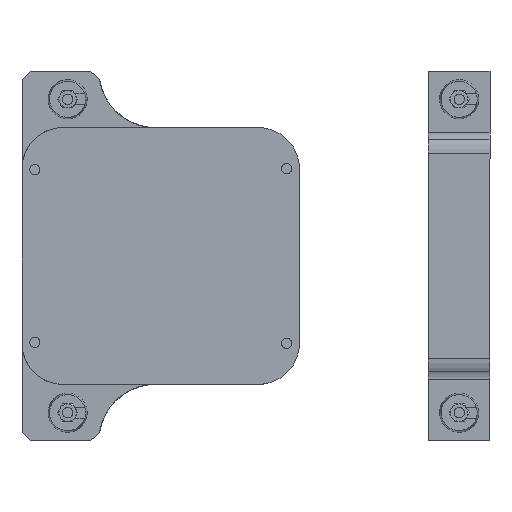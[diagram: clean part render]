
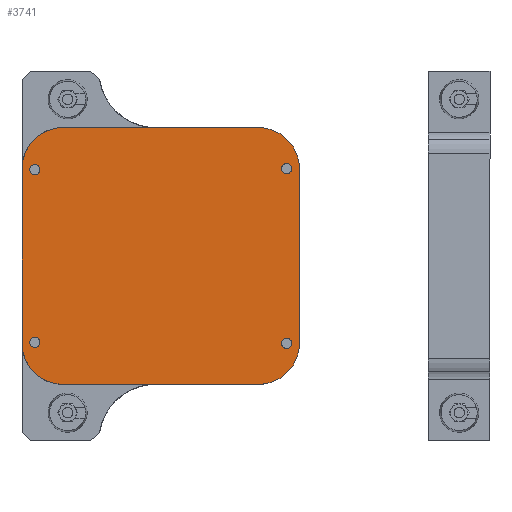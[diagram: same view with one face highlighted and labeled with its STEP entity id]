
A CAD part, top view. The second image highlights one B-rep face of the part: STEP entity #3741.
In plain terms, the highlighted planar face has unit normal (0, 0, 1).
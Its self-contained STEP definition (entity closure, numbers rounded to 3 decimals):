
#1671=LINE('',#23038,#2329);
#1674=LINE('',#23046,#2332);
#1675=LINE('',#23048,#2333);
#1676=LINE('',#23050,#2334);
#2329=VECTOR('',#17945,1.);
#2332=VECTOR('',#17954,1.);
#2333=VECTOR('',#17957,1.);
#2334=VECTOR('',#17960,1.);
#2691=FACE_BOUND('',#5826,.T.);
#2692=FACE_BOUND('',#5827,.T.);
#2693=FACE_BOUND('',#5828,.T.);
#2694=FACE_BOUND('',#5829,.T.);
#2695=FACE_BOUND('',#5830,.T.);
#3741=ADVANCED_FACE('',(#2691,#2692,#2693,#2694,#2695),#4584,.F.);
#4584=PLANE('',#15393);
#5826=EDGE_LOOP('',(#8377));
#5827=EDGE_LOOP('',(#8378));
#5828=EDGE_LOOP('',(#8379));
#5829=EDGE_LOOP('',(#8380));
#5830=EDGE_LOOP('',(#8381,#8382,#8383,#8384,#8385,#8386,#8387,#8388));
#8377=ORIENTED_EDGE('',*,*,#12943,.F.);
#8378=ORIENTED_EDGE('',*,*,#12942,.F.);
#8379=ORIENTED_EDGE('',*,*,#12941,.F.);
#8380=ORIENTED_EDGE('',*,*,#12940,.F.);
#8381=ORIENTED_EDGE('',*,*,#12938,.T.);
#8382=ORIENTED_EDGE('',*,*,#12936,.T.);
#8383=ORIENTED_EDGE('',*,*,#12937,.T.);
#8384=ORIENTED_EDGE('',*,*,#12932,.T.);
#8385=ORIENTED_EDGE('',*,*,#12933,.T.);
#8386=ORIENTED_EDGE('',*,*,#12929,.T.);
#8387=ORIENTED_EDGE('',*,*,#12939,.T.);
#8388=ORIENTED_EDGE('',*,*,#12926,.T.);
#11269=VERTEX_POINT('',#23021);
#11270=VERTEX_POINT('',#23023);
#11271=VERTEX_POINT('',#23027);
#11272=VERTEX_POINT('',#23029);
#11273=VERTEX_POINT('',#23033);
#11274=VERTEX_POINT('',#23035);
#11275=VERTEX_POINT('',#23041);
#11276=VERTEX_POINT('',#23043);
#11277=VERTEX_POINT('',#23053);
#11278=VERTEX_POINT('',#23056);
#11279=VERTEX_POINT('',#23059);
#11280=VERTEX_POINT('',#23062);
#12926=EDGE_CURVE('',#11269,#11270,#14317,.T.);
#12929=EDGE_CURVE('',#11271,#11272,#14318,.T.);
#12932=EDGE_CURVE('',#11273,#11274,#14319,.T.);
#12933=EDGE_CURVE('',#11274,#11271,#1671,.T.);
#12936=EDGE_CURVE('',#11275,#11276,#14320,.T.);
#12937=EDGE_CURVE('',#11276,#11273,#1674,.T.);
#12938=EDGE_CURVE('',#11270,#11275,#1675,.T.);
#12939=EDGE_CURVE('',#11272,#11269,#1676,.T.);
#12940=EDGE_CURVE('',#11277,#11277,#14321,.T.);
#12941=EDGE_CURVE('',#11278,#11278,#14322,.T.);
#12942=EDGE_CURVE('',#11279,#11279,#14323,.T.);
#12943=EDGE_CURVE('',#11280,#11280,#14324,.T.);
#14317=CIRCLE('',#15373,40.);
#14318=CIRCLE('',#15375,40.);
#14319=CIRCLE('',#15377,40.);
#14320=CIRCLE('',#15380,40.);
#14321=CIRCLE('',#15385,5.);
#14322=CIRCLE('',#15387,5.);
#14323=CIRCLE('',#15389,5.);
#14324=CIRCLE('',#15391,5.);
#15373=AXIS2_PLACEMENT_3D('',#23024,#17929,#17930);
#15375=AXIS2_PLACEMENT_3D('',#23030,#17935,#17936);
#15377=AXIS2_PLACEMENT_3D('',#23036,#17941,#17942);
#15380=AXIS2_PLACEMENT_3D('',#23044,#17950,#17951);
#15385=AXIS2_PLACEMENT_3D('',#23052,#17963,#17964);
#15387=AXIS2_PLACEMENT_3D('',#23055,#17967,#17968);
#15389=AXIS2_PLACEMENT_3D('',#23058,#17971,#17972);
#15391=AXIS2_PLACEMENT_3D('',#23061,#17975,#17976);
#15393=AXIS2_PLACEMENT_3D('',#23064,#17979,#17980);
#17929=DIRECTION('',(0.,0.,1.));
#17930=DIRECTION('',(1.,0.,0.));
#17935=DIRECTION('',(0.,0.,1.));
#17936=DIRECTION('',(1.,0.,0.));
#17941=DIRECTION('',(0.,0.,1.));
#17942=DIRECTION('',(1.,0.,0.));
#17945=DIRECTION('',(1.,0.,0.));
#17950=DIRECTION('',(0.,0.,1.));
#17951=DIRECTION('',(1.,0.,0.));
#17954=DIRECTION('',(0.,-1.,0.));
#17957=DIRECTION('',(-1.,0.,0.));
#17960=DIRECTION('',(0.,1.,0.));
#17963=DIRECTION('',(0.,0.,1.));
#17964=DIRECTION('',(-1.,0.,0.));
#17967=DIRECTION('',(0.,0.,1.));
#17968=DIRECTION('',(-1.,0.,0.));
#17971=DIRECTION('',(0.,0.,1.));
#17972=DIRECTION('',(-1.,0.,0.));
#17975=DIRECTION('',(0.,0.,1.));
#17976=DIRECTION('',(-1.,0.,0.));
#17979=DIRECTION('',(0.,0.,-1.));
#17980=DIRECTION('',(1.,0.,0.));
#23021=CARTESIAN_POINT('',(281.1,94.391,-21.31));
#23023=CARTESIAN_POINT('',(241.1,134.391,-21.31));
#23024=CARTESIAN_POINT('',(241.1,94.391,-21.31));
#23027=CARTESIAN_POINT('',(241.1,-115.609,-21.31));
#23029=CARTESIAN_POINT('',(281.1,-75.609,-21.31));
#23030=CARTESIAN_POINT('',(241.1,-75.609,-21.31));
#23033=CARTESIAN_POINT('',(11.1,-75.609,-21.31));
#23035=CARTESIAN_POINT('',(51.1,-115.609,-21.31));
#23036=CARTESIAN_POINT('',(51.1,-75.609,-21.31));
#23038=CARTESIAN_POINT('',(11.1,-115.609,-21.31));
#23041=CARTESIAN_POINT('',(51.1,134.391,-21.31));
#23043=CARTESIAN_POINT('',(11.1,94.391,-21.31));
#23044=CARTESIAN_POINT('',(51.1,94.391,-21.31));
#23046=CARTESIAN_POINT('',(11.1,134.391,-21.31));
#23048=CARTESIAN_POINT('',(281.1,134.391,-21.31));
#23050=CARTESIAN_POINT('',(281.1,-115.609,-21.31));
#23052=CARTESIAN_POINT('',(268.6,-75.609,-21.31));
#23053=CARTESIAN_POINT('',(263.6,-75.609,-21.31));
#23055=CARTESIAN_POINT('',(268.6,94.391,-21.31));
#23056=CARTESIAN_POINT('',(263.6,94.391,-21.31));
#23058=CARTESIAN_POINT('',(23.6,93.391,-21.31));
#23059=CARTESIAN_POINT('',(18.6,93.391,-21.31));
#23061=CARTESIAN_POINT('',(23.6,-74.609,-21.31));
#23062=CARTESIAN_POINT('',(18.6,-74.609,-21.31));
#23064=CARTESIAN_POINT('',(281.1,-115.609,-21.31));
